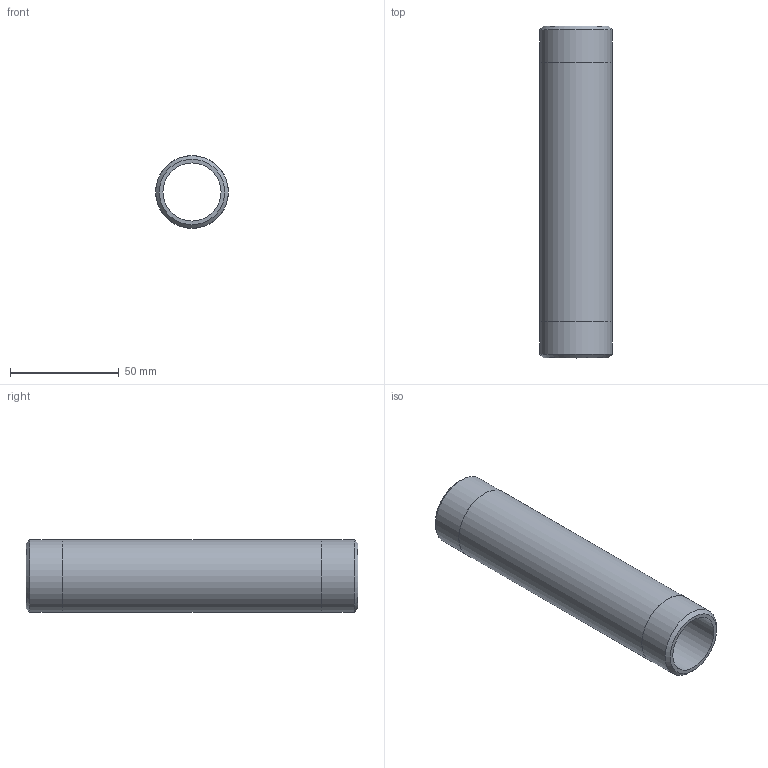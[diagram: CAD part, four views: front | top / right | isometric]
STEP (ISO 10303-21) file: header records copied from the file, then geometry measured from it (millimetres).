
FILE_DESCRIPTION(/* description */ (''),/* implementation_level */ '2;1');
FILE_NAME(/* name */ 'C:/Users/drich/Desktop/BPN1-6 v1.step',/* time_stamp */ '2020-01-03T14:16:26-06:00',/* author */ (''),/* organization */ (''),/* preprocessor_version */ 'ST-DEVELOPER v18',/* originating_system */ 'Autodesk Translation Framework v8.12.0.6',/* authorisation */ '');
FILE_SCHEMA (('AUTOMOTIVE_DESIGN { 1 0 10303 214 3 1 1 }'));
Length unit declared in the file: inch
Products named in the file (1): BPN1-6
Bounding box: 33.4 x 152.4 x 33.4 mm (x, y, z)
Volume: 48193.6 mm3; surface area: 29170.7 mm2
Topology: 1 solids, 1 shells, 10 faces, 24 edges, 18 vertices
Faces by surface type: cylinder 4, plane 4, cone 2
Full cylindrical faces by diameter (mm): 26.645 x1, 33.35 x2, 33.401 x1
Entity records: 360 total; most frequent: DIRECTION 64, CARTESIAN_POINT 53, ORIENTED_EDGE 48, AXIS2_PLACEMENT_3D 29, EDGE_CURVE 24, CIRCLE 18, VERTEX_POINT 18, EDGE_LOOP 14
